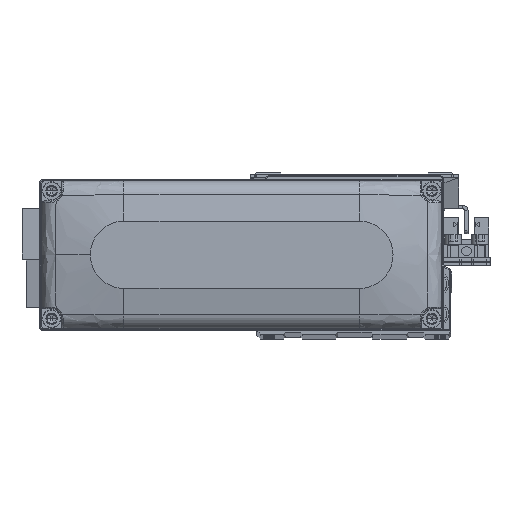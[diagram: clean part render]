
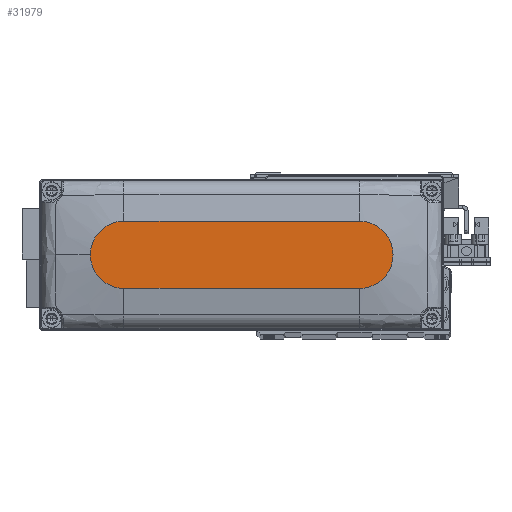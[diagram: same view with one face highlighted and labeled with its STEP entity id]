
A CAD part, top view. The second image highlights one B-rep face of the part: STEP entity #31979.
In plain terms, the highlighted planar face has unit normal (0, 0, 1).
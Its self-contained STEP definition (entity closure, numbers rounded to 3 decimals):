
#208 = VERTEX_POINT ( 'NONE', #33017 ) ;
#1071 = EDGE_CURVE ( 'NONE', #208, #37967, #21356, .T. ) ;
#1274 = CARTESIAN_POINT ( 'NONE',  ( 35., 0., 28. ) ) ;
#1746 = DIRECTION ( 'NONE',  ( 0., 0., 1. ) ) ;
#1841 = AXIS2_PLACEMENT_3D ( 'NONE', #32722, #1746, #15553 ) ;
#1845 = AXIS2_PLACEMENT_3D ( 'NONE', #19135, #32917, #1932 ) ;
#1932 = DIRECTION ( 'NONE',  ( 1., 0., 0. ) ) ;
#2114 = CARTESIAN_POINT ( 'NONE',  ( -35., -10., 28. ) ) ;
#2517 = FACE_OUTER_BOUND ( 'NONE', #17205, .T. ) ;
#4856 = CARTESIAN_POINT ( 'NONE',  ( -35., 10., 28. ) ) ;
#5744 = CARTESIAN_POINT ( 'NONE',  ( -35., -10., 28. ) ) ;
#6654 = VECTOR ( 'NONE', #19550, 1000. ) ;
#7232 = ORIENTED_EDGE ( 'NONE', *, *, #41662, .T. ) ;
#12915 = DIRECTION ( 'NONE',  ( 1., 0., 0. ) ) ;
#13604 = ORIENTED_EDGE ( 'NONE', *, *, #1071, .T. ) ;
#15046 = VERTEX_POINT ( 'NONE', #17120 ) ;
#15075 = DIRECTION ( 'NONE',  ( 0., 0., 1. ) ) ;
#15553 = DIRECTION ( 'NONE',  ( 1., 0., 0. ) ) ;
#16322 = PLANE ( 'NONE',  #24946 ) ;
#16753 = CIRCLE ( 'NONE', #42045, 10. ) ;
#17120 = CARTESIAN_POINT ( 'NONE',  ( 35., -10., 28. ) ) ;
#17205 = EDGE_LOOP ( 'NONE', ( #24007, #37222, #7232, #29938, #13604 ) ) ;
#18665 = DIRECTION ( 'NONE',  ( -1., 0., 0. ) ) ;
#19135 = CARTESIAN_POINT ( 'NONE',  ( 35., 0., 28. ) ) ;
#19550 = DIRECTION ( 'NONE',  ( 1., 0., 0. ) ) ;
#21229 = EDGE_CURVE ( 'NONE', #15046, #208, #16753, .T. ) ;
#21353 = CIRCLE ( 'NONE', #1841, 10. ) ;
#21356 = CIRCLE ( 'NONE', #1845, 10. ) ;
#23095 = VERTEX_POINT ( 'NONE', #2114 ) ;
#24007 = ORIENTED_EDGE ( 'NONE', *, *, #40322, .T. ) ;
#24676 = CARTESIAN_POINT ( 'NONE',  ( -35., 10., 28. ) ) ;
#24712 = EDGE_CURVE ( 'NONE', #35178, #23095, #21353, .T. ) ;
#24946 = AXIS2_PLACEMENT_3D ( 'NONE', #30108, #43911, #12915 ) ;
#28857 = DIRECTION ( 'NONE',  ( 1., 0., 0. ) ) ;
#29938 = ORIENTED_EDGE ( 'NONE', *, *, #21229, .T. ) ;
#30108 = CARTESIAN_POINT ( 'NONE',  ( 0., 0., 28. ) ) ;
#31979 = ADVANCED_FACE ( 'NONE', ( #2517 ), #16322, .T. ) ;
#32722 = CARTESIAN_POINT ( 'NONE',  ( -35., 0., 28. ) ) ;
#32917 = DIRECTION ( 'NONE',  ( 0., 0., 1. ) ) ;
#33017 = CARTESIAN_POINT ( 'NONE',  ( 45., 0., 28. ) ) ;
#35178 = VERTEX_POINT ( 'NONE', #24676 ) ;
#35858 = LINE ( 'NONE', #4856, #43407 ) ;
#36547 = CARTESIAN_POINT ( 'NONE',  ( 35., 10., 28. ) ) ;
#36749 = LINE ( 'NONE', #5744, #6654 ) ;
#37222 = ORIENTED_EDGE ( 'NONE', *, *, #24712, .T. ) ;
#37967 = VERTEX_POINT ( 'NONE', #36547 ) ;
#40322 = EDGE_CURVE ( 'NONE', #37967, #35178, #35858, .T. ) ;
#41662 = EDGE_CURVE ( 'NONE', #23095, #15046, #36749, .T. ) ;
#42045 = AXIS2_PLACEMENT_3D ( 'NONE', #1274, #15075, #28857 ) ;
#43407 = VECTOR ( 'NONE', #18665, 1000. ) ;
#43911 = DIRECTION ( 'NONE',  ( 0., 0., 1. ) ) ;
